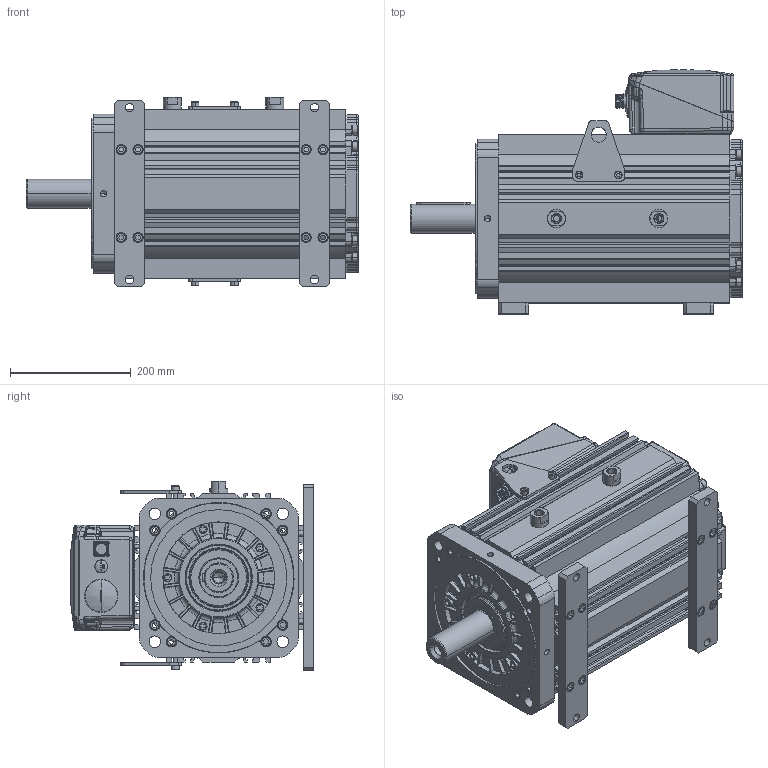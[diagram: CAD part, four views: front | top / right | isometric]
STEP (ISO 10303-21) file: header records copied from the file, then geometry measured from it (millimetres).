
FILE_DESCRIPTION((''),'2;1');
FILE_NAME('51561N-0_SW0001','2016-06-30T',('zhuanghaohui'),(''),'PRO/ENGINEER BY PARAMETRIC TECHNOLOGY CORPORATION, 2010430','PRO/ENGINEER BY PARAMETRIC TECHNOLOGY CORPORATION, 2010430','');
FILE_SCHEMA(('CONFIG_CONTROL_DESIGN'));
Products named in the file (1): 51561N-0_SW0001
Bounding box: 551.02 x 404.8 x 314.15 mm (x, y, z)
Surface area: 1438443.5 mm2 (no closed solid volume)
Topology: 0 solids, 152 shells, 1790 faces, 6931 edges, 5105 vertices
Faces by surface type: plane 703, cylinder 542, bspline 197, cone 192, torus 138, sphere 14, revolution 4
Entity records: 101041 total; most frequent: CARTESIAN_POINT 45827, DIRECTION 11025, ORIENTED_EDGE 10493, EDGE_CURVE 6923, VERTEX_POINT 5105, AXIS2_PLACEMENT_3D 3925, VECTOR 3171, LINE 3171
